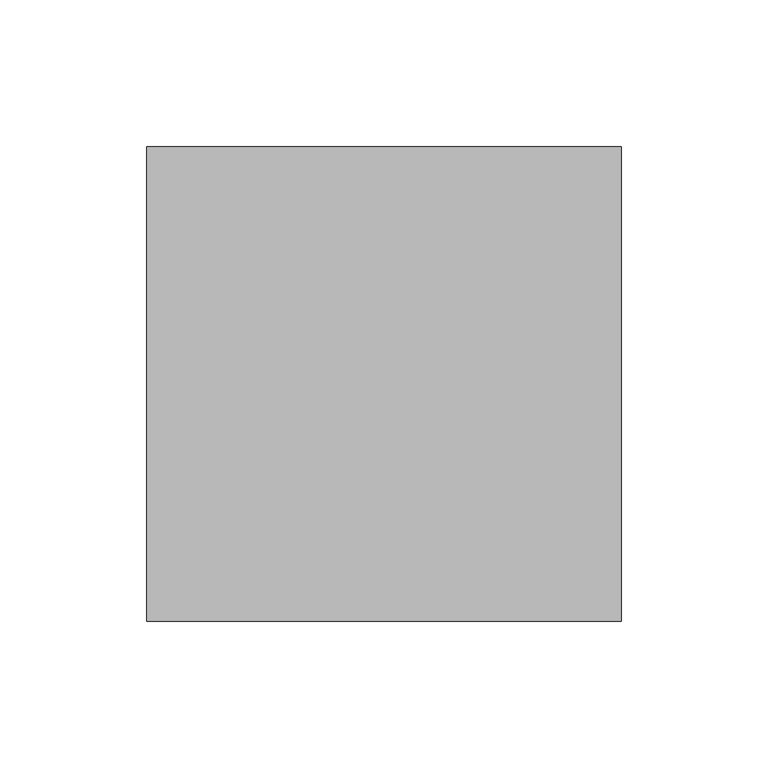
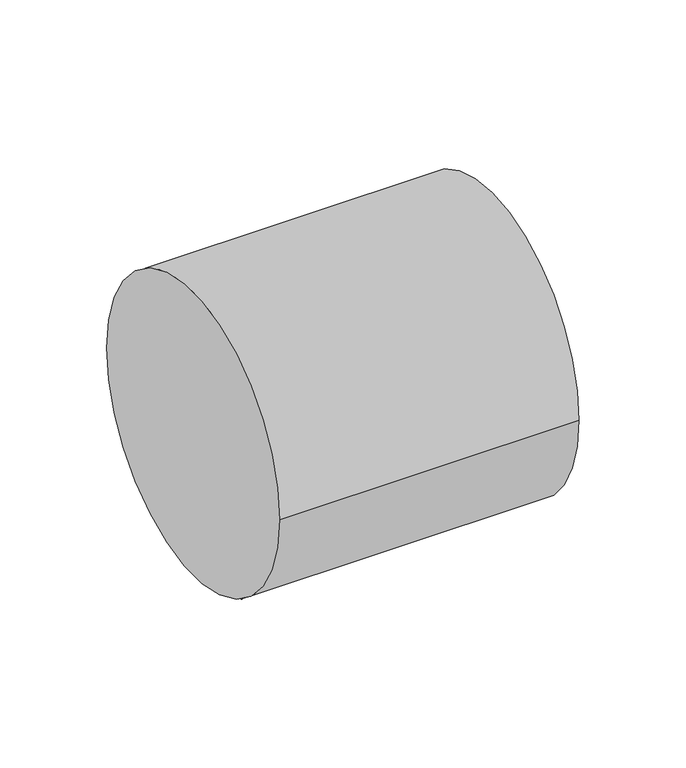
"""IFC4 building model written with IfcOpenShell, lengths in millimetres: pipe fitting geometry, 01051005 : Manguitos union."""

from ifc_helpers import new_model, si_unit, point, frame, origin, origin_2d, place, context, project, spatial, circle_curve, trimmed, segment, composite_curve, outline, extrude, source, transform, mapped, element, save


def pipe_fitting_2c6846c6(model_context):
    return source(origin(), model_context, "Body", "SweptSolid", [
        extrude(outline(composite_curve([segment(trimmed(circle_curve(origin_2d(), 81.0), [point((-81.0, 0.0))], [point((81.0, 0.0))], False, "CARTESIAN"), True, "CONTINUOUS"), segment(trimmed(circle_curve(origin_2d(), 81.0), [point((81.0, 0.0))], [point((-81.0, 0.0))], False, "CARTESIAN"), True, "CONTINUOUS")], self_intersect=False)), frame((-81.0, 0.0, 0.0), z_axis=(1.0, 0.0, 0.0), x_axis=(0.0, 1.0, 0.0)), (0.0, 0.0, 1.0), 162.0),
    ])


if __name__ == "__main__":
    model = new_model("IFC4")
    model_context = context("Model", 3, world=origin())
    ifc_project = project(units=[si_unit("LENGTHUNIT", "METRE", prefix="MILLI")], contexts=[model_context])
    site = spatial("IfcSite", under=ifc_project)
    building = spatial("IfcBuilding", under=site)
    placement = place(None, origin())
    pipe_fitting_shape = pipe_fitting_2c6846c6(model_context)
    element("IfcPipeFitting", 1, ObjectType="01051005 : Manguitos union", at=placement, inside=building, context=model_context, shape_type="MappedRepresentation", body=[
        mapped(pipe_fitting_shape, transform((0.0, 0.0, 0.0), x_axis=(1.0, 0.0, 0.0), y_axis=(0.0, 1.0, 0.0), z_axis=(0.0, 0.0, 1.0))),
    ])
    save(model, "model.ifc")
